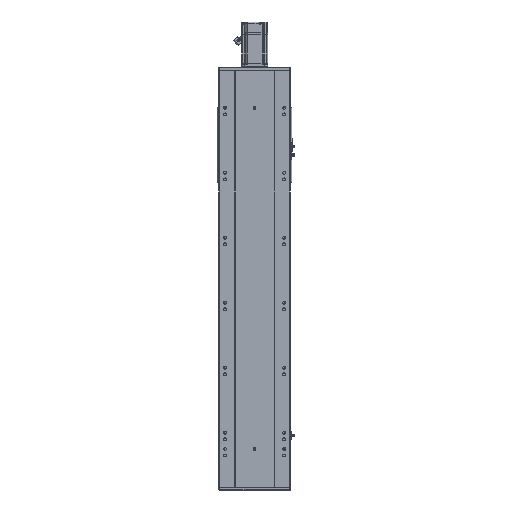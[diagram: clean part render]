
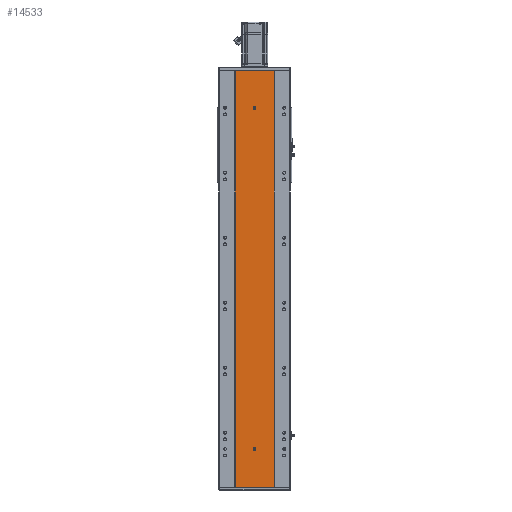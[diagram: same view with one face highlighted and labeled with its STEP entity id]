
A CAD part, front view. The second image highlights one B-rep face of the part: STEP entity #14533.
In plain terms, the highlighted planar face has unit normal (0, -1, 0).
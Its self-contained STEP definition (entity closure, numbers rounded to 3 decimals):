
#317 = VERTEX_POINT ( 'NONE', #44616 ) ;
#2994 = DIRECTION ( 'NONE',  ( 0., -1., 0. ) ) ;
#3192 = EDGE_CURVE ( 'NONE', #70518, #66776, #27355, .T. ) ;
#4635 = CARTESIAN_POINT ( 'NONE',  ( -60., 0., 0. ) ) ;
#5339 = LINE ( 'NONE', #28509, #59854 ) ;
#5353 = EDGE_CURVE ( 'NONE', #43623, #6382, #17447, .T. ) ;
#6263 = AXIS2_PLACEMENT_3D ( 'NONE', #26119, #65463, #26596 ) ;
#6382 = VERTEX_POINT ( 'NONE', #61515 ) ;
#6494 = CIRCLE ( 'NONE', #30059, 4. ) ;
#7201 = VERTEX_POINT ( 'NONE', #72915 ) ;
#8994 = DIRECTION ( 'NONE',  ( 0., 0., -1. ) ) ;
#8997 = CIRCLE ( 'NONE', #32440, 4. ) ;
#9093 = ORIENTED_EDGE ( 'NONE', *, *, #72378, .F. ) ;
#9770 = EDGE_CURVE ( 'NONE', #317, #19841, #6494, .T. ) ;
#11126 = ORIENTED_EDGE ( 'NONE', *, *, #5353, .F. ) ;
#11443 = DIRECTION ( 'NONE',  ( 0., -1., 0. ) ) ;
#11588 = VECTOR ( 'NONE', #58499, 1000. ) ;
#11891 = EDGE_CURVE ( 'NONE', #7201, #40670, #27442, .T. ) ;
#12854 = CARTESIAN_POINT ( 'NONE',  ( 0., 0., 1168. ) ) ;
#12925 = ORIENTED_EDGE ( 'NONE', *, *, #67767, .F. ) ;
#13554 = EDGE_LOOP ( 'NONE', ( #46321, #14149, #37395, #61643 ) ) ;
#13851 = VECTOR ( 'NONE', #8994, 1000. ) ;
#13891 = CARTESIAN_POINT ( 'NONE',  ( -4., 0., 116.5 ) ) ;
#14149 = ORIENTED_EDGE ( 'NONE', *, *, #11891, .F. ) ;
#14533 = ADVANCED_FACE ( 'NONE', ( #55310, #59678, #38528 ), #25875, .F. ) ;
#14806 = EDGE_CURVE ( 'NONE', #17591, #23320, #17438, .T. ) ;
#17438 = CIRCLE ( 'NONE', #6263, 4. ) ;
#17447 = LINE ( 'NONE', #29712, #50028 ) ;
#17506 = EDGE_CURVE ( 'NONE', #70518, #7201, #39027, .T. ) ;
#17591 = VERTEX_POINT ( 'NONE', #13891 ) ;
#19841 = VERTEX_POINT ( 'NONE', #51011 ) ;
#19930 = EDGE_CURVE ( 'NONE', #19841, #317, #8997, .T. ) ;
#20023 = DIRECTION ( 'NONE',  ( 0., 0., 1. ) ) ;
#20192 = CARTESIAN_POINT ( 'NONE',  ( 0., 0., 119.5 ) ) ;
#22358 = VECTOR ( 'NONE', #46831, 1000. ) ;
#23320 = VERTEX_POINT ( 'NONE', #71428 ) ;
#23446 = CIRCLE ( 'NONE', #51718, 4. ) ;
#23948 = CARTESIAN_POINT ( 'NONE',  ( -60., 0., 1282. ) ) ;
#24000 = CARTESIAN_POINT ( 'NONE',  ( -60., 0., 1282. ) ) ;
#25875 = PLANE ( 'NONE',  #35439 ) ;
#26092 = LINE ( 'NONE', #42138, #13851 ) ;
#26119 = CARTESIAN_POINT ( 'NONE',  ( 0., 0., 116.5 ) ) ;
#26346 = DIRECTION ( 'NONE',  ( 0., 0., -1. ) ) ;
#26596 = DIRECTION ( 'NONE',  ( 0., 0., -1. ) ) ;
#27355 = LINE ( 'NONE', #64116, #11588 ) ;
#27442 = LINE ( 'NONE', #66682, #41461 ) ;
#28509 = CARTESIAN_POINT ( 'NONE',  ( -60., 0., 0. ) ) ;
#29093 = CARTESIAN_POINT ( 'NONE',  ( 0., 0., 116.5 ) ) ;
#29234 = DIRECTION ( 'NONE',  ( 0., 0., -1. ) ) ;
#29682 = CARTESIAN_POINT ( 'NONE',  ( -4., 0., 119.5 ) ) ;
#29712 = CARTESIAN_POINT ( 'NONE',  ( 4., 0., 116.5 ) ) ;
#30059 = AXIS2_PLACEMENT_3D ( 'NONE', #68814, #46687, #29234 ) ;
#31442 = ORIENTED_EDGE ( 'NONE', *, *, #9770, .F. ) ;
#32084 = ORIENTED_EDGE ( 'NONE', *, *, #19930, .F. ) ;
#32440 = AXIS2_PLACEMENT_3D ( 'NONE', #12854, #36369, #26346 ) ;
#33030 = EDGE_LOOP ( 'NONE', ( #11126, #9093, #72092, #64516, #12925 ) ) ;
#35439 = AXIS2_PLACEMENT_3D ( 'NONE', #43065, #53696, #20023 ) ;
#36369 = DIRECTION ( 'NONE',  ( 0., -1., 0. ) ) ;
#37395 = ORIENTED_EDGE ( 'NONE', *, *, #17506, .F. ) ;
#38528 = FACE_OUTER_BOUND ( 'NONE', #13554, .T. ) ;
#39027 = LINE ( 'NONE', #23948, #22358 ) ;
#40670 = VERTEX_POINT ( 'NONE', #55942 ) ;
#41461 = VECTOR ( 'NONE', #72323, 1000. ) ;
#42138 = CARTESIAN_POINT ( 'NONE',  ( -4., 0., 116.5 ) ) ;
#42599 = EDGE_LOOP ( 'NONE', ( #32084, #31442 ) ) ;
#43065 = CARTESIAN_POINT ( 'NONE',  ( -60., 0., 1282. ) ) ;
#43623 = VERTEX_POINT ( 'NONE', #72074 ) ;
#44616 = CARTESIAN_POINT ( 'NONE',  ( 0., 0., 1172. ) ) ;
#44711 = DIRECTION ( 'NONE',  ( 1., 0., 0. ) ) ;
#44936 = AXIS2_PLACEMENT_3D ( 'NONE', #29093, #11443, #68432 ) ;
#46321 = ORIENTED_EDGE ( 'NONE', *, *, #46589, .T. ) ;
#46589 = EDGE_CURVE ( 'NONE', #66776, #40670, #5339, .T. ) ;
#46687 = DIRECTION ( 'NONE',  ( 0., -1., 0. ) ) ;
#46831 = DIRECTION ( 'NONE',  ( 1., 0., 0. ) ) ;
#49484 = EDGE_CURVE ( 'NONE', #68299, #17591, #26092, .T. ) ;
#50028 = VECTOR ( 'NONE', #69060, 1000. ) ;
#51011 = CARTESIAN_POINT ( 'NONE',  ( 0., 0., 1164. ) ) ;
#51718 = AXIS2_PLACEMENT_3D ( 'NONE', #20192, #2994, #70064 ) ;
#53696 = DIRECTION ( 'NONE',  ( 0., 1., 0. ) ) ;
#55310 = FACE_BOUND ( 'NONE', #42599, .T. ) ;
#55942 = CARTESIAN_POINT ( 'NONE',  ( 60., 0., 0. ) ) ;
#58499 = DIRECTION ( 'NONE',  ( 0., 0., -1. ) ) ;
#59678 = FACE_BOUND ( 'NONE', #33030, .T. ) ;
#59854 = VECTOR ( 'NONE', #44711, 1000. ) ;
#61515 = CARTESIAN_POINT ( 'NONE',  ( 4., 0., 119.5 ) ) ;
#61643 = ORIENTED_EDGE ( 'NONE', *, *, #3192, .T. ) ;
#64116 = CARTESIAN_POINT ( 'NONE',  ( -60., 0., 1282. ) ) ;
#64516 = ORIENTED_EDGE ( 'NONE', *, *, #49484, .F. ) ;
#65463 = DIRECTION ( 'NONE',  ( 0., -1., 0. ) ) ;
#66682 = CARTESIAN_POINT ( 'NONE',  ( 60., 0., 1282. ) ) ;
#66776 = VERTEX_POINT ( 'NONE', #4635 ) ;
#67767 = EDGE_CURVE ( 'NONE', #6382, #68299, #23446, .T. ) ;
#68299 = VERTEX_POINT ( 'NONE', #29682 ) ;
#68432 = DIRECTION ( 'NONE',  ( 0., 0., -1. ) ) ;
#68814 = CARTESIAN_POINT ( 'NONE',  ( 0., 0., 1168. ) ) ;
#69060 = DIRECTION ( 'NONE',  ( 0., 0., 1. ) ) ;
#70064 = DIRECTION ( 'NONE',  ( 0., 0., -1. ) ) ;
#70518 = VERTEX_POINT ( 'NONE', #24000 ) ;
#71428 = CARTESIAN_POINT ( 'NONE',  ( 0., 0., 112.5 ) ) ;
#71931 = CIRCLE ( 'NONE', #44936, 4. ) ;
#72074 = CARTESIAN_POINT ( 'NONE',  ( 4., 0., 116.5 ) ) ;
#72092 = ORIENTED_EDGE ( 'NONE', *, *, #14806, .F. ) ;
#72323 = DIRECTION ( 'NONE',  ( 0., 0., -1. ) ) ;
#72378 = EDGE_CURVE ( 'NONE', #23320, #43623, #71931, .T. ) ;
#72915 = CARTESIAN_POINT ( 'NONE',  ( 60., 0., 1282. ) ) ;
